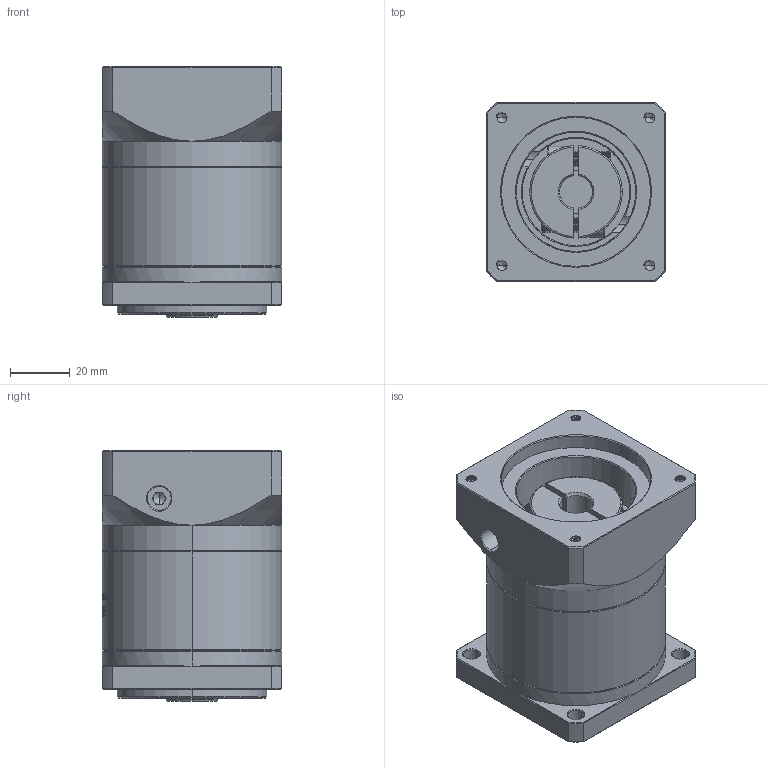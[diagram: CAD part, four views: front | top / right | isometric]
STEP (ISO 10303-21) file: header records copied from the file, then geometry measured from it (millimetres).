
FILE_DESCRIPTION (( 'STEP AP214' ), '1' );
FILE_NAME ('ZF60-K10-L1-11-50-70-M4.STEP', '2022-04-17T11:37:25', ( '' ), ( 'Microsoft' ), 'SwSTEP 2.0', 'SolidWorks 2016', '' );
FILE_SCHEMA (( 'AUTOMOTIVE_DESIGN' ));
Length unit declared in the file: millimetre
Products named in the file (1): ZF60-K10-L1-11-50-70-M4
Bounding box: 60 x 60 x 84 mm (x, y, z)
Volume: 214703 mm3; surface area: 42701.3 mm2
Topology: 6 solids, 6 shells, 1559 faces, 4215 edges, 2731 vertices
Faces by surface type: plane 737, bspline 292, cylinder 284, cone 228, torus 18
Entity records: 82828 total; most frequent: CARTESIAN_POINT 29867, ORIENTED_EDGE 8406, DIRECTION 6221, EDGE_CURVE 4203, VERTEX_POINT 2731, LINE 2157, VECTOR 2157, AXIS2_PLACEMENT_3D 2032
